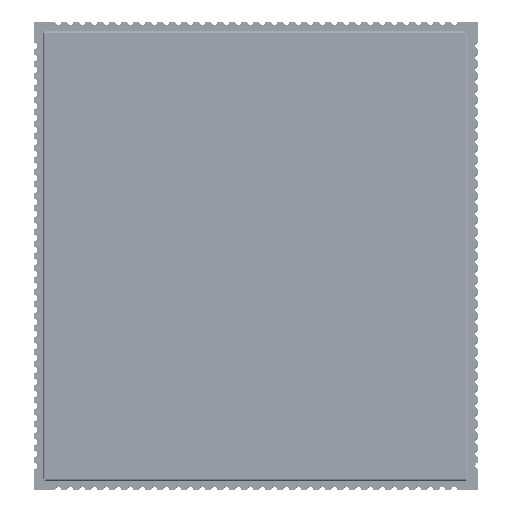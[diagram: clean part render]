
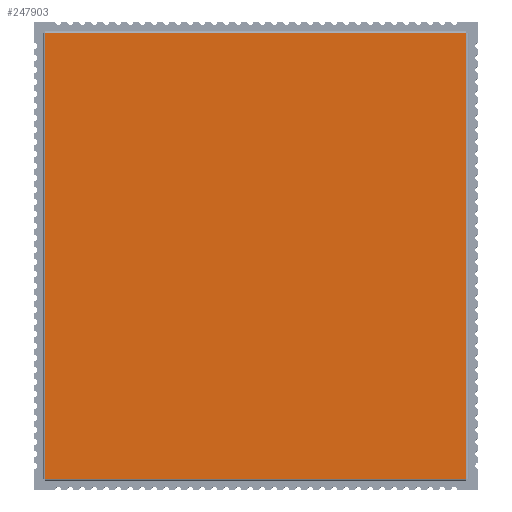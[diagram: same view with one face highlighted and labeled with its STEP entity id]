
A CAD part, top view. The second image highlights one B-rep face of the part: STEP entity #247903.
In plain terms, the highlighted planar face has unit normal (0, 0, 1) as drawn and (0, 1, 0) by its records, which use the part's own axes.
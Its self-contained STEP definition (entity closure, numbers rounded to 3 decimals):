
#244416=DIRECTION('',(0.,0.,-1.));
#244417=VECTOR('',#244416,37.1);
#244418=CARTESIAN_POINT('',(-17.55,0.2,18.55));
#244419=LINE('',#244418,#244417);
#245756=DIRECTION('',(-1.,0.,0.));
#245757=VECTOR('',#245756,35.1);
#245758=CARTESIAN_POINT('',(17.55,0.2,18.55));
#245759=LINE('',#245758,#245757);
#245786=DIRECTION('',(1.,0.,0.));
#245787=VECTOR('',#245786,35.1);
#245788=CARTESIAN_POINT('',(-17.55,0.2,-18.55));
#245789=LINE('',#245788,#245787);
#245831=DIRECTION('',(0.,0.,1.));
#245832=VECTOR('',#245831,37.1);
#245833=CARTESIAN_POINT('',(17.55,0.2,-18.55));
#245834=LINE('',#245833,#245832);
#246020=CARTESIAN_POINT('',(-17.55,0.2,-18.55));
#246021=VERTEX_POINT('',#246020);
#246022=CARTESIAN_POINT('',(-17.55,0.2,18.55));
#246023=VERTEX_POINT('',#246022);
#246032=CARTESIAN_POINT('',(17.55,0.2,18.55));
#246033=VERTEX_POINT('',#246032);
#246034=CARTESIAN_POINT('',(17.55,0.2,-18.55));
#246035=VERTEX_POINT('',#246034);
#247890=CARTESIAN_POINT('',(0.,0.2,0.));
#247891=DIRECTION('',(0.,1.,0.));
#247892=DIRECTION('',(1.,0.,0.));
#247893=AXIS2_PLACEMENT_3D('',#247890,#247891,#247892);
#247894=PLANE('',#247893);
#247895=ORIENTED_EDGE('',*,*,#247881,.T.);
#247896=ORIENTED_EDGE('',*,*,#246694,.T.);
#247898=ORIENTED_EDGE('',*,*,#247897,.T.);
#247900=ORIENTED_EDGE('',*,*,#247899,.T.);
#247901=EDGE_LOOP('',(#247895,#247896,#247898,#247900));
#247902=FACE_OUTER_BOUND('',#247901,.F.);
#246694=EDGE_CURVE('',#246023,#246021,#244419,.T.);
#247881=EDGE_CURVE('',#246033,#246023,#245759,.T.);
#247897=EDGE_CURVE('',#246021,#246035,#245789,.T.);
#247899=EDGE_CURVE('',#246035,#246033,#245834,.T.);
#247903=ADVANCED_FACE('',(#247902),#247894,.T.);
